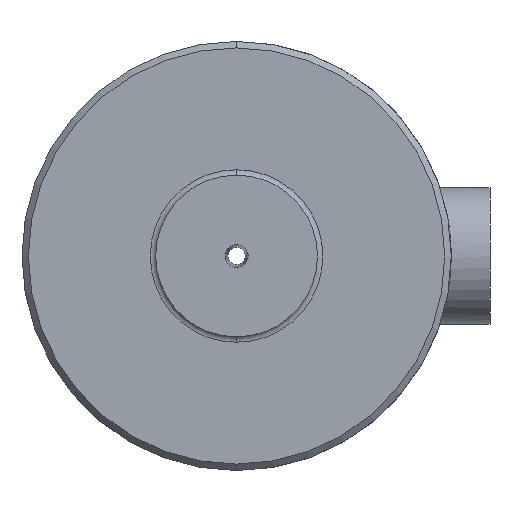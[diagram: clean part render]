
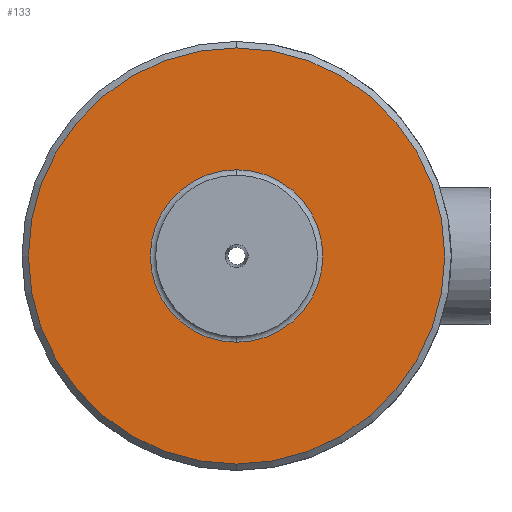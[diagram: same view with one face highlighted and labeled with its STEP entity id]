
A CAD part, front view. The second image highlights one B-rep face of the part: STEP entity #133.
In plain terms, the highlighted planar face has unit normal (0, -1, 0).
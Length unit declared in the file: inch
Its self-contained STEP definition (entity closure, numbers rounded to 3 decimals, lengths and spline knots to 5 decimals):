
#96 = EDGE_CURVE ( 'NONE', #97, #98, #501, .T. ) ;
#97 = VERTEX_POINT ( 'NONE', #493 ) ;
#98 = VERTEX_POINT ( 'NONE', #492 ) ;
#130 = EDGE_CURVE ( 'NONE', #98, #97, #643, .T. ) ;
#133 = ADVANCED_FACE ( 'NONE', ( #700, #699 ), #698, .T. ) ;
#134 = EDGE_LOOP ( 'NONE', ( #135, #561 ) ) ;
#135 = ORIENTED_EDGE ( 'NONE', *, *, #130, .T. ) ;
#267 = EDGE_CURVE ( 'NONE', #302, #314, #1265, .T. ) ;
#302 = VERTEX_POINT ( 'NONE', #1018 ) ;
#314 = VERTEX_POINT ( 'NONE', #1045 ) ;
#319 = EDGE_CURVE ( 'NONE', #314, #302, #1068, .T. ) ;
#396 = ORIENTED_EDGE ( 'NONE', *, *, #267, .F. ) ;
#405 = ORIENTED_EDGE ( 'NONE', *, *, #319, .F. ) ;
#492 = CARTESIAN_POINT ( 'NONE',  ( 0., -1., 0.4 ) ) ;
#493 = CARTESIAN_POINT ( 'NONE',  ( 0., -1., -0.4 ) ) ;
#494 = DIRECTION ( 'NONE',  ( 0., 0., 1. ) ) ;
#495 = DIRECTION ( 'NONE',  ( 0., 1., 0. ) ) ;
#496 = CARTESIAN_POINT ( 'NONE',  ( 0., -1., 0. ) ) ;
#497 = AXIS2_PLACEMENT_3D ( 'NONE', #496, #495, #494 ) ;
#501 = CIRCLE ( 'NONE', #497, 0.4 ) ;
#561 = ORIENTED_EDGE ( 'NONE', *, *, #96, .T. ) ;
#562 = EDGE_LOOP ( 'NONE', ( #405, #396 ) ) ;
#637 = DIRECTION ( 'NONE',  ( 0., 1., 0. ) ) ;
#638 = CARTESIAN_POINT ( 'NONE',  ( 0., -1., 0. ) ) ;
#639 = AXIS2_PLACEMENT_3D ( 'NONE', #638, #637, #701 ) ;
#643 = CIRCLE ( 'NONE', #639, 0.4 ) ;
#694 = DIRECTION ( 'NONE',  ( 0., 0., -1. ) ) ;
#695 = DIRECTION ( 'NONE',  ( 0., -1., 0. ) ) ;
#696 = CARTESIAN_POINT ( 'NONE',  ( 0.965, -1., 0. ) ) ;
#697 = AXIS2_PLACEMENT_3D ( 'NONE', #696, #695, #694 ) ;
#698 = PLANE ( 'NONE',  #697 ) ;
#699 = FACE_OUTER_BOUND ( 'NONE', #562, .T. ) ;
#700 = FACE_BOUND ( 'NONE', #134, .T. ) ;
#701 = DIRECTION ( 'NONE',  ( 0., 0., 1. ) ) ;
#1018 = CARTESIAN_POINT ( 'NONE',  ( 0., -1., -0.965 ) ) ;
#1045 = CARTESIAN_POINT ( 'NONE',  ( 0., -1., 0.965 ) ) ;
#1065 = AXIS2_PLACEMENT_3D ( 'NONE', #1070, #1067, #1066 ) ;
#1066 = DIRECTION ( 'NONE',  ( 0., 0., 1. ) ) ;
#1067 = DIRECTION ( 'NONE',  ( 0., 1., 0. ) ) ;
#1068 = CIRCLE ( 'NONE', #1065, 0.965 ) ;
#1070 = CARTESIAN_POINT ( 'NONE',  ( 0., -1., 0. ) ) ;
#1213 = DIRECTION ( 'NONE',  ( 0., 1., 0. ) ) ;
#1214 = DIRECTION ( 'NONE',  ( 0., 0., 1. ) ) ;
#1264 = AXIS2_PLACEMENT_3D ( 'NONE', #1266, #1213, #1214 ) ;
#1265 = CIRCLE ( 'NONE', #1264, 0.965 ) ;
#1266 = CARTESIAN_POINT ( 'NONE',  ( 0., -1., 0. ) ) ;
